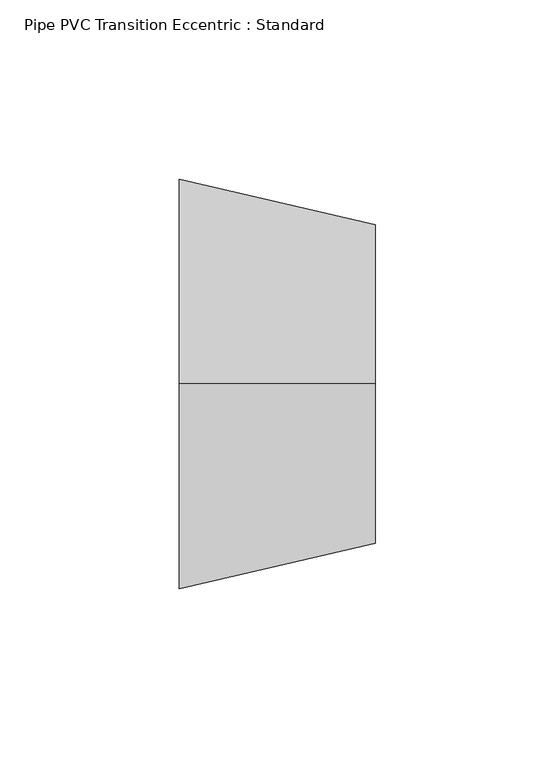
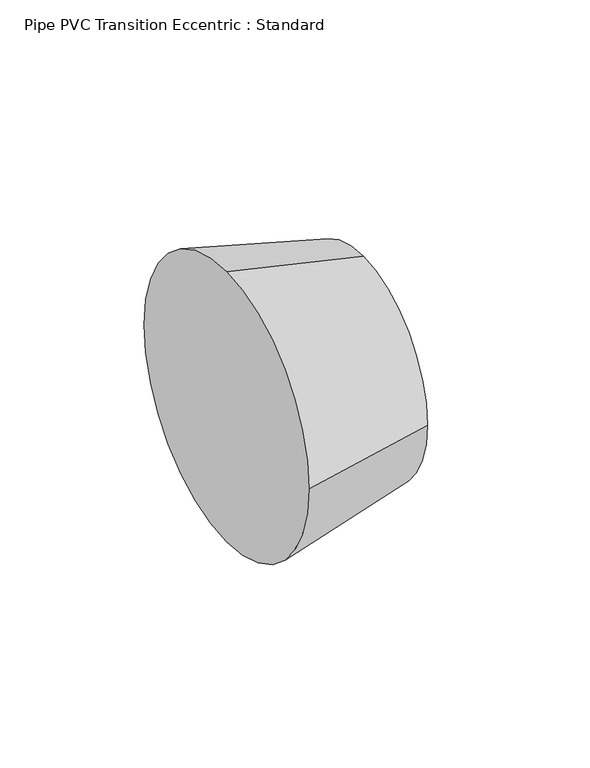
"""IFC4 building model written with IfcOpenShell, lengths in millimetres: pipe fitting geometry, Pipe PVC Transition Eccentric : Standard."""

import ifcopenshell
import ifcopenshell.guid

model = None  # the IFC model being written
_history = None  # IfcOwnerHistory: only IFC2X3 demands one
_inside = {}  # id of a spatial element -> (the spatial element, [elements in it])
_under = {}  # id of a project, library or spatial element -> (it, [spatial elements below it])
_declared = {}  # id of a project -> (the project, [libraries it declares])
_typed = {}  # id of a type object -> (the type object, [elements of that type])
_made_of = {}  # id of a material, layer set ... -> (it, [elements and type objects made of it])


def new_model(schema):
    """Start an empty IFC model of exactly this schema.

    Asked for "IFC4X3", IfcOpenShell would pick the latest addendum, in which some entities
    have other attributes; the version numbers below select the first issue.
    IFC2X3 requires an IfcOwnerHistory on every rooted entity: one is made here for all.
    """
    global model, _history
    if schema == "IFC4X3":
        model = ifcopenshell.file(schema_version=(4, 3, 0, 0))
    else:
        model = ifcopenshell.file(schema=schema)
    _inside.clear()
    _under.clear()
    _declared.clear()
    _typed.clear()
    _made_of.clear()
    _history = None
    if model.schema == "IFC2X3":
        org = make("IfcOrganization", Name="unknown")
        user = make(
            "IfcPersonAndOrganization",
            ThePerson=make("IfcPerson", FamilyName="unknown"),
            TheOrganization=org,
        )
        app = make(
            "IfcApplication",
            ApplicationDeveloper=org,
            Version="unknown",
            ApplicationFullName="unknown",
            ApplicationIdentifier="unknown",
        )
        _history = make(
            "IfcOwnerHistory",
            OwningUser=user,
            OwningApplication=app,
            ChangeAction="ADDED",
            CreationDate=0,
        )
    return model


def make(cls, **values):
    """One entity of the class cls with the attributes given. An attribute that is None is left unset."""
    return model.create_entity(
        cls, **{name: value for name, value in values.items() if value is not None}
    )


def rooted(cls, **values):
    """An entity with a GlobalId (a new one), such as an element, a storey or a relation."""
    return make(cls, GlobalId=ifcopenshell.guid.new(), OwnerHistory=_history, **values)


def si_unit(unit_type, name, prefix=None):
    """IfcSIUnit, for example si_unit("LENGTHUNIT", "METRE", prefix="MILLI")."""
    return make("IfcSIUnit", UnitType=unit_type, Prefix=prefix, Name=name)


def assignment(units):
    """IfcUnitAssignment: the units of a project."""
    return None if units is None else make("IfcUnitAssignment", Units=units)


def point(xyz):
    """IfcCartesianPoint."""
    return None if xyz is None else make("IfcCartesianPoint", Coordinates=xyz)


def direction(xyz):
    """IfcDirection."""
    return None if xyz is None else make("IfcDirection", DirectionRatios=xyz)


def frame(location, z_axis=None, x_axis=None):
    """IfcAxis2Placement3D, a coordinate frame: its origin and axes. An axis left out is left unset."""
    return make(
        "IfcAxis2Placement3D",
        Location=point(location),
        Axis=direction(z_axis),
        RefDirection=direction(x_axis),
    )


def origin():
    """The frame at (0, 0, 0) with its axes left unset."""
    return frame((0.0, 0.0, 0.0))


def place(relative_to, where):
    """IfcLocalPlacement: puts the frame where relative to a parent placement (None: the world)."""
    return make(
        "IfcLocalPlacement", PlacementRelTo=relative_to, RelativePlacement=where
    )


def context(
    kind, dimensions, precision=None, world=None, true_north=None, identifier=None
):
    """IfcGeometricRepresentationContext, for example the 3D "Model" context."""
    return make(
        "IfcGeometricRepresentationContext",
        ContextIdentifier=identifier,
        ContextType=kind,
        CoordinateSpaceDimension=dimensions,
        Precision=precision,
        WorldCoordinateSystem=world,
        TrueNorth=true_north,
    )


def project(units=None, contexts=None):
    """IfcProject with its units and contexts."""
    return rooted(
        "IfcProject",
        Name="project",
        RepresentationContexts=contexts,
        UnitsInContext=assignment(units),
    )


def spatial(cls, under=None, at=None, **own):
    """A site, building, storey or space (cls), placed at a placement, below another one or the project."""
    s = rooted(cls, ObjectPlacement=at, **own)
    if under is not None:
        _under.setdefault(under.id(), (under, []))[1].append(s)
    return s


def circle_curve(where, radius):
    """IfcCircle in the frame where."""
    return make("IfcCircle", Position=where, Radius=radius)


def shape(context_of_items, identifier, shape_type, items):
    """IfcShapeRepresentation: the items that make up one representation, for example the "Body"."""
    return make(
        "IfcShapeRepresentation",
        ContextOfItems=context_of_items,
        RepresentationIdentifier=identifier,
        RepresentationType=shape_type,
        Items=items,
    )


def source(mapping_origin, context_of_items, identifier, shape_type, items):
    """IfcRepresentationMap: a shape defined once, which mapped items show again and again."""
    return make(
        "IfcRepresentationMap",
        MappingOrigin=mapping_origin,
        MappedRepresentation=shape(context_of_items, identifier, shape_type, items),
    )


def transform(
    local_origin,
    x_axis=None,
    y_axis=None,
    z_axis=None,
    scale=None,
    scale2=None,
    scale3=None,
    uniform=True,
):
    """IfcCartesianTransformationOperator3D, or its non-uniform kind. x_axis, y_axis, z_axis: its Axis1, 2, 3."""
    if uniform:
        return make(
            "IfcCartesianTransformationOperator3D",
            Axis1=direction(x_axis),
            Axis2=direction(y_axis),
            LocalOrigin=point(local_origin),
            Scale=scale,
            Axis3=direction(z_axis),
        )
    return make(
        "IfcCartesianTransformationOperator3DnonUniform",
        Axis1=direction(x_axis),
        Axis2=direction(y_axis),
        LocalOrigin=point(local_origin),
        Scale=scale,
        Axis3=direction(z_axis),
        Scale2=scale2,
        Scale3=scale3,
    )


def mapped(mapping_source, mapping_target):
    """IfcMappedItem: shows the shape of a source again, moved by a transform."""
    return make(
        "IfcMappedItem", MappingSource=mapping_source, MappingTarget=mapping_target
    )


def made_of(thing, what):
    """Note that an element or type object is made of a material, layer set ...; save() writes the relation."""
    if what is not None:
        _made_of.setdefault(what.id(), (what, []))[1].append(thing)
    return thing


def element(
    cls,
    number,
    at=None,
    inside=None,
    cuts=None,
    type_object=None,
    material=None,
    context=None,
    identifier="Body",
    shape_type=None,
    held_by="IfcProductDefinitionShape",
    body=None,
    shapes=None,
    **own,
):
    """One element of the class cls, such as IfcWall. Its Tag is "e" and its number.

    at: its placement. inside: the storey or other place that contains it. cuts: it is an
    opening in that element (IfcRelVoidsElement). A single representation is given by context,
    identifier, shape_type and body (its items); several are given by shapes. held_by: the class
    of the entity that holds the representations. save() writes the other relations.
    """
    e = rooted(cls, Tag="e%d" % number, ObjectPlacement=at, **own)
    if body is not None:
        shapes = [shape(context, identifier, shape_type, body)]
    if shapes is not None:
        e.Representation = make(held_by, Representations=shapes)
    if inside is not None:
        _inside.setdefault(inside.id(), (inside, []))[1].append(e)
    if cuts is not None:
        rooted(
            "IfcRelVoidsElement", RelatingBuildingElement=cuts, RelatedOpeningElement=e
        )
    if type_object is not None:
        _typed.setdefault(type_object.id(), (type_object, []))[1].append(e)
    return made_of(e, material)


def aggregate(whole, parts):
    """IfcRelAggregates: a whole, such as a stair, and the parts it consists of."""
    return rooted("IfcRelAggregates", RelatingObject=whole, RelatedObjects=parts)


def save(model, path):
    """Write the relations noted so far, then the file.

    IfcRelAggregates (storeys below a building ...), IfcRelContainedInSpatialStructure (elements
    in a storey), IfcRelDefinesByType, IfcRelAssociatesMaterial and IfcRelDeclares: one each for
    every whole, place, type object, material and project.
    """
    for whole, parts in _under.values():
        aggregate(whole, parts)
    for where, things in _inside.values():
        rooted(
            "IfcRelContainedInSpatialStructure",
            RelatedElements=things,
            RelatingStructure=where,
        )
    for kind, things in _typed.values():
        rooted("IfcRelDefinesByType", RelatedObjects=things, RelatingType=kind)
    for what, things in _made_of.values():
        rooted("IfcRelAssociatesMaterial", RelatedObjects=things, RelatingMaterial=what)
    for by, libraries in _declared.values():
        rooted("IfcRelDeclares", RelatingContext=by, RelatedDefinitions=libraries)
    model.write(path)


def plane_surface(at):
    """IfcPlane: the flat surface through the origin of the frame at, square to its z axis."""
    return make("IfcPlane", Position=at)


def spline_surface(u_degree, v_degree, points, u_multiplicities, v_multiplicities, u_knots, v_knots, weights=None):
    """IfcBSplineSurfaceWithKnots; with weights, IfcRationalBSplineSurfaceWithKnots. points: one row for each step in u."""
    own = dict(
        UDegree=u_degree,
        VDegree=v_degree,
        ControlPointsList=[[point(p) for p in row] for row in points],
        SurfaceForm="UNSPECIFIED",
        UClosed=False,
        VClosed=False,
        SelfIntersect=False,
        UMultiplicities=u_multiplicities,
        VMultiplicities=v_multiplicities,
        UKnots=u_knots,
        VKnots=v_knots,
        KnotSpec="UNSPECIFIED",
    )
    if weights is None:
        return make("IfcBSplineSurfaceWithKnots", **own)
    return make("IfcRationalBSplineSurfaceWithKnots", WeightsData=weights, **own)


def advanced_brep(points, edges, surfaces, faces):
    """IfcAdvancedBrep: a solid bounded by faces that lie on surfaces and meet in shared edges.

    An edge is (start, end): straight between two places in points (the first is 0);
    or (start, end, curve); or (start, end, curve, False) where it runs against its curve.
    A face is (place in surfaces, loops), or (place, loops, False) where it looks against
    its surface's normal. A loop lists edges by number (the first is 1), with a minus sign
    where the edge is run from its end to its start. The first loop is the outer one.
    """
    corners = [point(p) for p in points]
    vertices = [make("IfcVertexPoint", VertexGeometry=c) for c in corners]
    made = []
    for start, end, *more in edges:
        made.append(
            make(
                "IfcEdgeCurve",
                EdgeStart=vertices[start],
                EdgeEnd=vertices[end],
                EdgeGeometry=more[0] if more else make("IfcPolyline", Points=[corners[start], corners[end]]),
                SameSense=more[1] if len(more) > 1 else True,
            )
        )
    hull = []
    for where, loops, *sense in faces:
        bounds = []
        for j, loop in enumerate(loops):
            ring = [make("IfcOrientedEdge", EdgeElement=made[abs(k) - 1], Orientation=k > 0) for k in loop]
            bounds.append(
                make(
                    "IfcFaceOuterBound" if j == 0 else "IfcFaceBound",
                    Bound=make("IfcEdgeLoop", EdgeList=ring),
                    Orientation=True,
                )
            )
        hull.append(make("IfcAdvancedFace", Bounds=bounds, FaceSurface=surfaces[where], SameSense=sense[0] if sense else True))
    return make("IfcAdvancedBrep", Outer=make("IfcClosedShell", CfsFaces=hull))


def pipe_pvc_transition_eccentric_standard_585967aa(model_context):
    return source(origin(), model_context, "Body", "AdvancedBrep", [
        advanced_brep(
        [(54.76875, 0.0, 44.469256), (54.76875, -44.45, 0.019256), (54.76875, 0.0, -44.430744), (54.76875, 44.45, 0.019256), (0.0, 0.0, 57.15), (0.0, 57.15, 0.0), (0.0, 0.0, -57.15), (0.0, -57.15, 0.0)],
        [
            (0, 1, circle_curve(frame((54.76875, 0.0, 0.019256), z_axis=(1.0, 0.0, 0.0), x_axis=(0.0, 1.0, 0.0)), 44.45)),
            (1, 2, circle_curve(frame((54.76875, 0.0, 0.019256), z_axis=(1.0, 0.0, 0.0), x_axis=(0.0, 1.0, 0.0)), 44.45)),
            (2, 3, circle_curve(frame((54.76875, 0.0, 0.019256), z_axis=(1.0, 0.0, 0.0), x_axis=(0.0, 1.0, 0.0)), 44.45)),
            (3, 0, circle_curve(frame((54.76875, 0.0, 0.019256), z_axis=(1.0, 0.0, 0.0), x_axis=(0.0, 1.0, 0.0)), 44.45)),
            (4, 5, circle_curve(frame((0.0, 0.0, 0.0), z_axis=(-1.0, 0.0, 0.0), x_axis=(0.0, 1.0, 0.0)), 57.15)),
            (5, 6, circle_curve(frame((0.0, 0.0, 0.0), z_axis=(-1.0, 0.0, 0.0), x_axis=(0.0, 1.0, 0.0)), 57.15)),
            (6, 7, circle_curve(frame((0.0, 0.0, 0.0), z_axis=(-1.0, 0.0, 0.0), x_axis=(0.0, 1.0, 0.0)), 57.15)),
            (7, 4, circle_curve(frame((0.0, 0.0, 0.0), z_axis=(-1.0, 0.0, 0.0), x_axis=(0.0, 1.0, 0.0)), 57.15)),
            (7, 1),
            (0, 4),
            (6, 2),
            (5, 3),
        ],
        [
            plane_surface(frame((54.76875, 0.0, 0.019256), z_axis=(1.0, 0.0, 0.0), x_axis=(0.0, -1.0, 0.0))),
            plane_surface(frame((0.0, 0.0, 0.0), z_axis=(-1.0, 0.0, 0.0), x_axis=(0.0, -1.0, 0.0))),
            spline_surface(2, 1, [[(0.0, 0.0, 57.15), (54.76875, 0.0, 44.469256)], [(0.0, -57.15, 57.15), (54.76875, -44.45, 44.469256)], [(0.0, -57.15, 0.0), (54.76875, -44.45, 0.019256)]], [3, 3], [2, 2], [0.0, 1.0], [0.0, 1.0], weights=[[1.0, 1.0], [0.7071067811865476, 0.7071067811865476], [1.0, 1.0]]),
            spline_surface(2, 1, [[(0.0, -57.15, 0.0), (54.76875, -44.45, 0.019256)], [(0.0, -57.15, -57.15), (54.76875, -44.45, -44.430744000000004)], [(0.0, 0.0, -57.15), (54.76875, 0.0, -44.430744)]], [3, 3], [2, 2], [0.0, 1.0], [0.0, 1.0], weights=[[1.0, 1.0], [0.7071067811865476, 0.7071067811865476], [1.0, 1.0]]),
            spline_surface(2, 1, [[(0.0, 0.0, -57.15), (54.76875, 0.0, -44.430744)], [(0.0, 57.15, -57.15), (54.76875, 44.449999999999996, -44.430744)], [(0.0, 57.15, 0.0), (54.76875, 44.45, 0.019256)]], [3, 3], [2, 2], [0.0, 1.0], [0.0, 1.0], weights=[[1.0, 1.0], [0.7071067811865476, 0.7071067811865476], [1.0, 1.0]]),
            spline_surface(2, 1, [[(0.0, 57.15, 0.0), (54.76875, 44.45, 0.019256)], [(0.0, 57.15, 57.15), (54.76875, 44.45, 44.469256)], [(0.0, 0.0, 57.15), (54.76875, 0.0, 44.469256)]], [3, 3], [2, 2], [0.0, 1.0], [0.0, 1.0], weights=[[1.0, 1.0], [0.7071067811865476, 0.7071067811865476], [1.0, 1.0]]),
        ],
        [
            (0, [[1, 2, 3, 4]]),
            (1, [[5, 6, 7, 8]]),
            (2, [[-8, 9, -1, 10]]),
            (3, [[-7, 11, -2, -9]]),
            (4, [[-6, 12, -3, -11]]),
            (5, [[-5, -10, -4, -12]]),
        ],
    ),
        advanced_brep(
        [(54.76875, 0.0, 44.469256), (54.76875, -44.45, 0.019256), (54.76875, 0.0, -44.430744), (54.76875, 44.45, 0.019256), (0.0, 0.0, 57.15), (0.0, 57.15, 0.0), (0.0, 0.0, -57.15), (0.0, -57.15, 0.0)],
        [
            (0, 1, circle_curve(frame((54.76875, 0.0, 0.019256), z_axis=(1.0, 0.0, 0.0), x_axis=(0.0, 1.0, 0.0)), 44.45)),
            (1, 2, circle_curve(frame((54.76875, 0.0, 0.019256), z_axis=(1.0, 0.0, 0.0), x_axis=(0.0, 1.0, 0.0)), 44.45)),
            (2, 3, circle_curve(frame((54.76875, 0.0, 0.019256), z_axis=(1.0, 0.0, 0.0), x_axis=(0.0, 1.0, 0.0)), 44.45)),
            (3, 0, circle_curve(frame((54.76875, 0.0, 0.019256), z_axis=(1.0, 0.0, 0.0), x_axis=(0.0, 1.0, 0.0)), 44.45)),
            (4, 5, circle_curve(frame((0.0, 0.0, 0.0), z_axis=(-1.0, 0.0, 0.0), x_axis=(0.0, 1.0, 0.0)), 57.15)),
            (5, 6, circle_curve(frame((0.0, 0.0, 0.0), z_axis=(-1.0, 0.0, 0.0), x_axis=(0.0, 1.0, 0.0)), 57.15)),
            (6, 7, circle_curve(frame((0.0, 0.0, 0.0), z_axis=(-1.0, 0.0, 0.0), x_axis=(0.0, 1.0, 0.0)), 57.15)),
            (7, 4, circle_curve(frame((0.0, 0.0, 0.0), z_axis=(-1.0, 0.0, 0.0), x_axis=(0.0, 1.0, 0.0)), 57.15)),
            (7, 1),
            (0, 4),
            (6, 2),
            (5, 3),
        ],
        [
            plane_surface(frame((54.76875, 0.0, 0.019256), z_axis=(1.0, 0.0, 0.0), x_axis=(0.0, -1.0, 0.0))),
            plane_surface(frame((0.0, 0.0, 0.0), z_axis=(-1.0, 0.0, 0.0), x_axis=(0.0, -1.0, 0.0))),
            spline_surface(2, 1, [[(0.0, 0.0, 57.15), (54.76875, 0.0, 44.469256)], [(0.0, -57.15, 57.15), (54.76875, -44.45, 44.469256)], [(0.0, -57.15, 0.0), (54.76875, -44.45, 0.019256)]], [3, 3], [2, 2], [0.0, 1.0], [0.0, 1.0], weights=[[1.0, 1.0], [0.7071067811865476, 0.7071067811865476], [1.0, 1.0]]),
            spline_surface(2, 1, [[(0.0, -57.15, 0.0), (54.76875, -44.45, 0.019256)], [(0.0, -57.15, -57.15), (54.76875, -44.45, -44.430744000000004)], [(0.0, 0.0, -57.15), (54.76875, 0.0, -44.430744)]], [3, 3], [2, 2], [0.0, 1.0], [0.0, 1.0], weights=[[1.0, 1.0], [0.7071067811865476, 0.7071067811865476], [1.0, 1.0]]),
            spline_surface(2, 1, [[(0.0, 0.0, -57.15), (54.76875, 0.0, -44.430744)], [(0.0, 57.15, -57.15), (54.76875, 44.449999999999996, -44.430744)], [(0.0, 57.15, 0.0), (54.76875, 44.45, 0.019256)]], [3, 3], [2, 2], [0.0, 1.0], [0.0, 1.0], weights=[[1.0, 1.0], [0.7071067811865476, 0.7071067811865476], [1.0, 1.0]]),
            spline_surface(2, 1, [[(0.0, 57.15, 0.0), (54.76875, 44.45, 0.019256)], [(0.0, 57.15, 57.15), (54.76875, 44.45, 44.469256)], [(0.0, 0.0, 57.15), (54.76875, 0.0, 44.469256)]], [3, 3], [2, 2], [0.0, 1.0], [0.0, 1.0], weights=[[1.0, 1.0], [0.7071067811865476, 0.7071067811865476], [1.0, 1.0]]),
        ],
        [
            (0, [[1, 2, 3, 4]]),
            (1, [[5, 6, 7, 8]]),
            (2, [[-8, 9, -1, 10]]),
            (3, [[-7, 11, -2, -9]]),
            (4, [[-6, 12, -3, -11]]),
            (5, [[-5, -10, -4, -12]]),
        ],
    ),
    ])


if __name__ == "__main__":
    model = new_model("IFC4")
    model_context = context("Model", 3, world=origin())
    ifc_project = project(units=[si_unit("LENGTHUNIT", "METRE", prefix="MILLI")], contexts=[model_context])
    site = spatial("IfcSite", under=ifc_project)
    building = spatial("IfcBuilding", under=site)
    placement = place(None, origin())
    pipe_pvc_transition_eccentric_standard_shape = pipe_pvc_transition_eccentric_standard_585967aa(model_context)
    element("IfcPipeFitting", 1, ObjectType="Pipe PVC Transition Eccentric : Standard", at=placement, inside=building, context=model_context, shape_type="MappedRepresentation", body=[
        mapped(pipe_pvc_transition_eccentric_standard_shape, transform((0.0, 0.0, 0.0), x_axis=(1.0, 0.0, 0.0), y_axis=(0.0, 1.0, 0.0), z_axis=(0.0, 0.0, 1.0))),
    ])
    save(model, "model.ifc")
